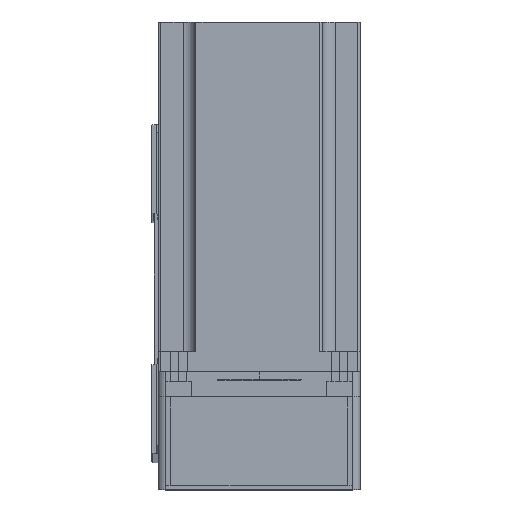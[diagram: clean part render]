
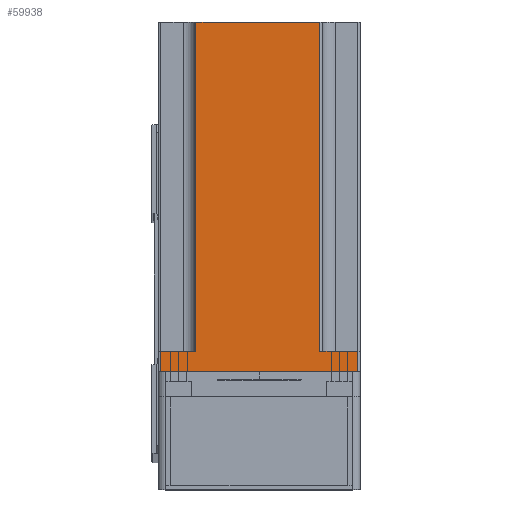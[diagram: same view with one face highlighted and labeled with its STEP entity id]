
A CAD part, top view. The second image highlights one B-rep face of the part: STEP entity #59938.
In plain terms, the highlighted planar face has unit normal (0, 0, 1) as drawn and (-1, 0, 0) by its records, which use the part's own axes.
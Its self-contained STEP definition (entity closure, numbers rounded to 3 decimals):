
#1049 = DIRECTION ( 'NONE',  ( 0., -1., 0. ) ) ;
#1649 = CARTESIAN_POINT ( 'NONE',  ( -40., -40., 138.3 ) ) ;
#1889 = LINE ( 'NONE', #25226, #38691 ) ;
#1890 = ORIENTED_EDGE ( 'NONE', *, *, #8545, .T. ) ;
#2201 = ORIENTED_EDGE ( 'NONE', *, *, #35274, .F. ) ;
#2873 = VECTOR ( 'NONE', #10504, 1000. ) ;
#5427 = VECTOR ( 'NONE', #34604, 1000. ) ;
#6385 = VERTEX_POINT ( 'NONE', #38983 ) ;
#6494 = DIRECTION ( 'NONE',  ( 0., 0., -1. ) ) ;
#7621 = LINE ( 'NONE', #12618, #55743 ) ;
#8545 = EDGE_CURVE ( 'NONE', #57544, #35828, #35346, .T. ) ;
#8900 = DIRECTION ( 'NONE',  ( 0., 0., 1. ) ) ;
#10110 = ORIENTED_EDGE ( 'NONE', *, *, #11709, .T. ) ;
#10504 = DIRECTION ( 'NONE',  ( 0., -1., 0. ) ) ;
#11709 = EDGE_CURVE ( 'NONE', #28951, #36888, #17392, .T. ) ;
#12618 = CARTESIAN_POINT ( 'NONE',  ( -40., -40., 8. ) ) ;
#12820 = FACE_OUTER_BOUND ( 'NONE', #23525, .T. ) ;
#13471 = AXIS2_PLACEMENT_3D ( 'NONE', #1649, #35244, #6494 ) ;
#14985 = VECTOR ( 'NONE', #26377, 1000. ) ;
#15671 = LINE ( 'NONE', #48748, #2873 ) ;
#17392 = LINE ( 'NONE', #35220, #54215 ) ;
#20722 = VERTEX_POINT ( 'NONE', #25266 ) ;
#21512 = CARTESIAN_POINT ( 'NONE',  ( -40., 25., 8. ) ) ;
#21551 = CARTESIAN_POINT ( 'NONE',  ( -40., 39., 138.3 ) ) ;
#22611 = VECTOR ( 'NONE', #8900, 1000. ) ;
#23525 = EDGE_LOOP ( 'NONE', ( #41455, #10110, #2201, #58762, #31545, #33845, #38999, #1890 ) ) ;
#24797 = CARTESIAN_POINT ( 'NONE',  ( -40., -39., 0. ) ) ;
#25226 = CARTESIAN_POINT ( 'NONE',  ( -40., -40., 0. ) ) ;
#25266 = CARTESIAN_POINT ( 'NONE',  ( -40., 25., 8. ) ) ;
#25638 = CARTESIAN_POINT ( 'NONE',  ( -40., -24., 138.3 ) ) ;
#26340 = DIRECTION ( 'NONE',  ( 0., 0., 1. ) ) ;
#26377 = DIRECTION ( 'NONE',  ( 0., 0., -1. ) ) ;
#26730 = VERTEX_POINT ( 'NONE', #61600 ) ;
#28501 = EDGE_CURVE ( 'NONE', #26730, #49887, #53324, .T. ) ;
#28951 = VERTEX_POINT ( 'NONE', #41004 ) ;
#29830 = CARTESIAN_POINT ( 'NONE',  ( -40., 40., 8. ) ) ;
#31545 = ORIENTED_EDGE ( 'NONE', *, *, #52530, .T. ) ;
#31844 = PLANE ( 'NONE',  #13471 ) ;
#32480 = EDGE_CURVE ( 'NONE', #28951, #35828, #7621, .T. ) ;
#32515 = LINE ( 'NONE', #29830, #5427 ) ;
#32813 = CARTESIAN_POINT ( 'NONE',  ( -40., -39., 138.3 ) ) ;
#33172 = LINE ( 'NONE', #21512, #44471 ) ;
#33845 = ORIENTED_EDGE ( 'NONE', *, *, #28501, .T. ) ;
#34604 = DIRECTION ( 'NONE',  ( 0., 1., 0. ) ) ;
#35220 = CARTESIAN_POINT ( 'NONE',  ( -40., -24., 138.3 ) ) ;
#35244 = DIRECTION ( 'NONE',  ( 1., 0., 0. ) ) ;
#35274 = EDGE_CURVE ( 'NONE', #6385, #36888, #15671, .T. ) ;
#35346 = LINE ( 'NONE', #32813, #22611 ) ;
#35828 = VERTEX_POINT ( 'NONE', #44658 ) ;
#36888 = VERTEX_POINT ( 'NONE', #25638 ) ;
#38691 = VECTOR ( 'NONE', #1049, 1000. ) ;
#38983 = CARTESIAN_POINT ( 'NONE',  ( -40., 25., 138.3 ) ) ;
#38999 = ORIENTED_EDGE ( 'NONE', *, *, #43801, .T. ) ;
#41004 = CARTESIAN_POINT ( 'NONE',  ( -40., -24., 8. ) ) ;
#41403 = DIRECTION ( 'NONE',  ( 0., -1., 0. ) ) ;
#41455 = ORIENTED_EDGE ( 'NONE', *, *, #32480, .F. ) ;
#43801 = EDGE_CURVE ( 'NONE', #49887, #57544, #1889, .T. ) ;
#44471 = VECTOR ( 'NONE', #26340, 1000. ) ;
#44658 = CARTESIAN_POINT ( 'NONE',  ( -40., -39., 8. ) ) ;
#48748 = CARTESIAN_POINT ( 'NONE',  ( -40., -40., 138.3 ) ) ;
#49887 = VERTEX_POINT ( 'NONE', #58274 ) ;
#50094 = EDGE_CURVE ( 'NONE', #20722, #6385, #33172, .T. ) ;
#52530 = EDGE_CURVE ( 'NONE', #20722, #26730, #32515, .T. ) ;
#53324 = LINE ( 'NONE', #21551, #14985 ) ;
#54215 = VECTOR ( 'NONE', #54993, 1000. ) ;
#54993 = DIRECTION ( 'NONE',  ( 0., 0., 1. ) ) ;
#55743 = VECTOR ( 'NONE', #41403, 1000. ) ;
#57544 = VERTEX_POINT ( 'NONE', #24797 ) ;
#58274 = CARTESIAN_POINT ( 'NONE',  ( -40., 39., 0. ) ) ;
#58762 = ORIENTED_EDGE ( 'NONE', *, *, #50094, .F. ) ;
#59938 = ADVANCED_FACE ( 'NONE', ( #12820 ), #31844, .F. ) ;
#61600 = CARTESIAN_POINT ( 'NONE',  ( -40., 39., 8. ) ) ;
